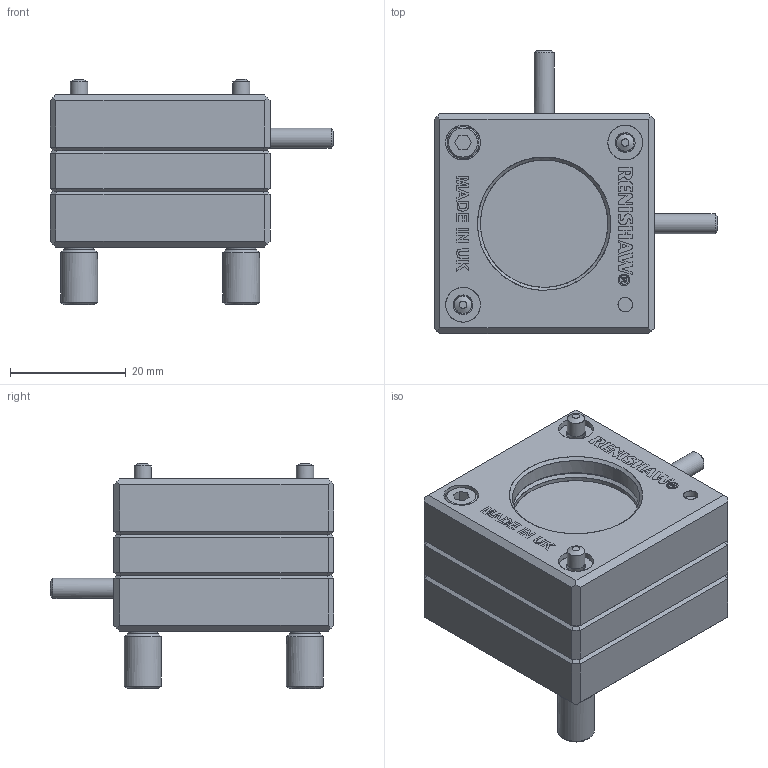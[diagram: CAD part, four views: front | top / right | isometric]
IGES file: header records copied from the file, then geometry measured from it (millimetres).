
Global section: file name: Y:\Applications & Technical Support Group\01 - Team members - MOVE TO DEPT\Laurence Rosser\LA-8003-2898-LASER STEERER FINE ADJUST\LA_8003_2898_A.igs; native system: NX V7.5; preprocessor: SIEMENS PLM Software NX 7.5; date: 20141126.132637; units: millimetre
Bounding box: 49 x 49 x 39 mm (x, y, z)
Surface area: 15171 mm2 (no closed solid volume)
Topology: 0 solids, 0 shells, 323 faces, 3029 edges, 2920 vertices
Faces by surface type: bspline 323
